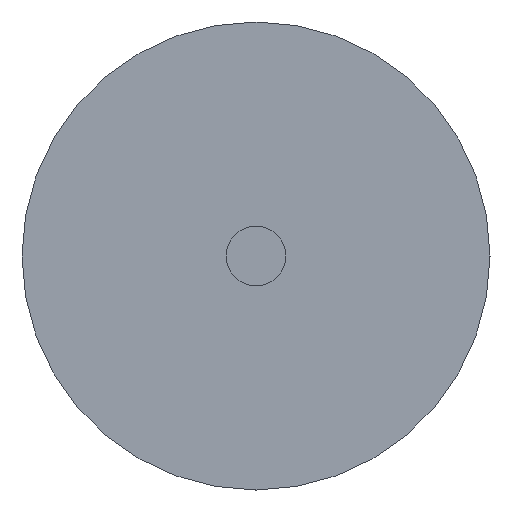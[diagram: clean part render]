
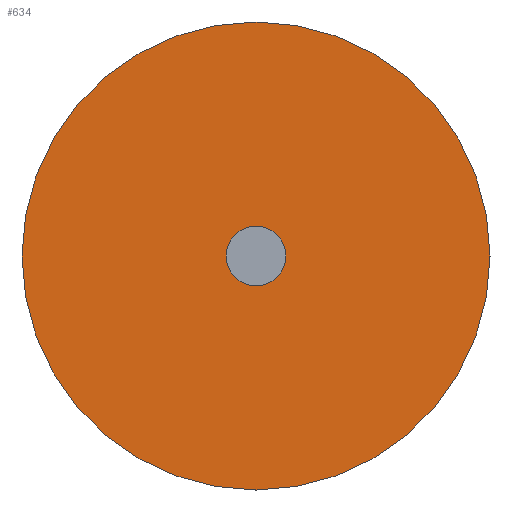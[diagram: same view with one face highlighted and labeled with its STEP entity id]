
A CAD part, left-side view. The second image highlights one B-rep face of the part: STEP entity #634.
In plain terms, the highlighted planar face has unit normal (-1, 0, 0).
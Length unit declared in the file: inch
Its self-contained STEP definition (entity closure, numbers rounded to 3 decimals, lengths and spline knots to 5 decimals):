
#2 = VERTEX_POINT ( 'NONE', #384 ) ;
#190 = ORIENTED_EDGE ( 'NONE', *, *, #352, .T. ) ;
#282 = VERTEX_POINT ( 'NONE', #2035 ) ;
#283 = VERTEX_POINT ( 'NONE', #391 ) ;
#300 = DIRECTION ( 'NONE',  ( -1., 0., 0. ) ) ;
#308 = DIRECTION ( 'NONE',  ( -1., 0., 0. ) ) ;
#352 = EDGE_CURVE ( 'NONE', #283, #1079, #1386, .T. ) ;
#372 = ORIENTED_EDGE ( 'NONE', *, *, #1116, .T. ) ;
#384 = CARTESIAN_POINT ( 'NONE',  ( 0., 0., 0.0125 ) ) ;
#391 = CARTESIAN_POINT ( 'NONE',  ( 0., 0., 0.09817 ) ) ;
#475 = EDGE_CURVE ( 'NONE', #2, #282, #1647, .T. ) ;
#504 = EDGE_CURVE ( 'NONE', #282, #2, #1016, .T. ) ;
#530 = DIRECTION ( 'NONE',  ( 0., 0., -1. ) ) ;
#561 = ORIENTED_EDGE ( 'NONE', *, *, #475, .F. ) ;
#634 = ADVANCED_FACE ( 'NONE', ( #1641, #2360 ), #704, .F. ) ;
#704 = PLANE ( 'NONE',  #805 ) ;
#735 = ORIENTED_EDGE ( 'NONE', *, *, #504, .F. ) ;
#747 = AXIS2_PLACEMENT_3D ( 'NONE', #1954, #308, #1053 ) ;
#778 = CIRCLE ( 'NONE', #747, 0.09817 ) ;
#787 = CARTESIAN_POINT ( 'NONE',  ( 0., 0., 0. ) ) ;
#805 = AXIS2_PLACEMENT_3D ( 'NONE', #1469, #2182, #530 ) ;
#832 = CARTESIAN_POINT ( 'NONE',  ( 0., 0., 0. ) ) ;
#927 = EDGE_LOOP ( 'NONE', ( #190, #372 ) ) ;
#985 = AXIS2_PLACEMENT_3D ( 'NONE', #1946, #300, #1044 ) ;
#1016 = CIRCLE ( 'NONE', #985, 0.0125 ) ;
#1044 = DIRECTION ( 'NONE',  ( 0., 0., 1. ) ) ;
#1053 = DIRECTION ( 'NONE',  ( 0., 0., 1. ) ) ;
#1079 = VERTEX_POINT ( 'NONE', #2143 ) ;
#1116 = EDGE_CURVE ( 'NONE', #1079, #283, #778, .T. ) ;
#1151 = AXIS2_PLACEMENT_3D ( 'NONE', #832, #1598, #2315 ) ;
#1386 = CIRCLE ( 'NONE', #1388, 0.09817 ) ;
#1388 = AXIS2_PLACEMENT_3D ( 'NONE', #787, #1560, #2266 ) ;
#1469 = CARTESIAN_POINT ( 'NONE',  ( 0., 0., 0. ) ) ;
#1560 = DIRECTION ( 'NONE',  ( -1., 0., 0. ) ) ;
#1598 = DIRECTION ( 'NONE',  ( -1., 0., 0. ) ) ;
#1637 = EDGE_LOOP ( 'NONE', ( #561, #735 ) ) ;
#1641 = FACE_BOUND ( 'NONE', #1637, .T. ) ;
#1647 = CIRCLE ( 'NONE', #1151, 0.0125 ) ;
#1946 = CARTESIAN_POINT ( 'NONE',  ( 0., 0., 0. ) ) ;
#1954 = CARTESIAN_POINT ( 'NONE',  ( 0., 0., 0. ) ) ;
#2035 = CARTESIAN_POINT ( 'NONE',  ( 0., 0., -0.0125 ) ) ;
#2143 = CARTESIAN_POINT ( 'NONE',  ( 0., 0., -0.09817 ) ) ;
#2182 = DIRECTION ( 'NONE',  ( 1., 0., 0. ) ) ;
#2266 = DIRECTION ( 'NONE',  ( 0., 0., 1. ) ) ;
#2315 = DIRECTION ( 'NONE',  ( 0., 0., 1. ) ) ;
#2360 = FACE_OUTER_BOUND ( 'NONE', #927, .T. ) ;
